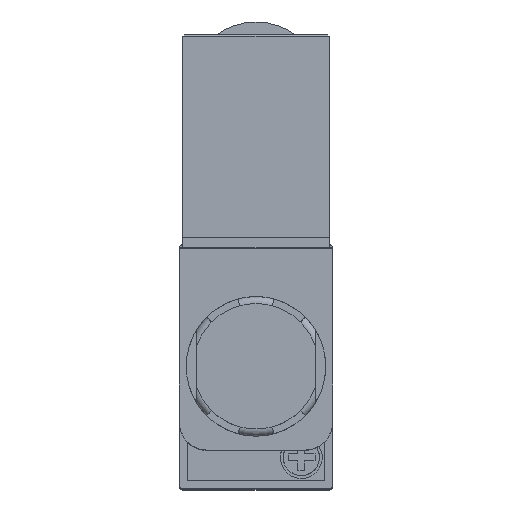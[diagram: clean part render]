
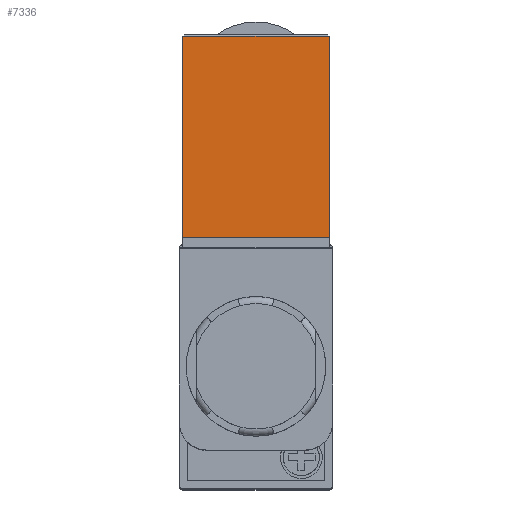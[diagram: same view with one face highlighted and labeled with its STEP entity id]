
A CAD part, top view. The second image highlights one B-rep face of the part: STEP entity #7336.
In plain terms, the highlighted planar face has unit normal (0, 0, 1).
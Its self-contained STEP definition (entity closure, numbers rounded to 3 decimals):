
#260=PLANE('',#8039);
#985=LINE('',#12447,#1681);
#991=LINE('',#12459,#1687);
#993=LINE('',#12463,#1689);
#996=LINE('',#12470,#1692);
#997=LINE('',#12471,#1693);
#998=LINE('',#12472,#1694);
#1681=VECTOR('',#9933,20.8);
#1687=VECTOR('',#9945,0.1);
#1689=VECTOR('',#9949,28.8);
#1692=VECTOR('',#9954,28.8);
#1693=VECTOR('',#9955,21.);
#1694=VECTOR('',#9956,0.1);
#2218=FACE_OUTER_BOUND('',#2718,.T.);
#2718=EDGE_LOOP('',(#6459,#6460,#6461,#6462,#6463,#6464));
#3711=VERTEX_POINT('',#12442);
#3712=VERTEX_POINT('',#12446);
#3715=VERTEX_POINT('',#12458);
#3716=VERTEX_POINT('',#12462);
#3718=VERTEX_POINT('',#12468);
#3719=VERTEX_POINT('',#12469);
#4662=EDGE_CURVE('',#3712,#3711,#985,.T.);
#4668=EDGE_CURVE('',#3712,#3715,#991,.T.);
#4670=EDGE_CURVE('',#3716,#3715,#993,.T.);
#4673=EDGE_CURVE('',#3718,#3719,#996,.T.);
#4674=EDGE_CURVE('',#3718,#3716,#997,.T.);
#4675=EDGE_CURVE('',#3719,#3711,#998,.T.);
#6459=ORIENTED_EDGE('',*,*,#4673,.F.);
#6460=ORIENTED_EDGE('',*,*,#4674,.T.);
#6461=ORIENTED_EDGE('',*,*,#4670,.T.);
#6462=ORIENTED_EDGE('',*,*,#4668,.F.);
#6463=ORIENTED_EDGE('',*,*,#4662,.T.);
#6464=ORIENTED_EDGE('',*,*,#4675,.F.);
#7336=ADVANCED_FACE('',(#2218),#260,.T.);
#8039=AXIS2_PLACEMENT_3D('',#12467,#9952,#9953);
#9933=DIRECTION('',(1.,0.,0.));
#9945=DIRECTION('',(-1.,0.,0.));
#9949=DIRECTION('',(0.,-1.,0.));
#9952=DIRECTION('center_axis',(0.,0.,1.));
#9953=DIRECTION('ref_axis',(1.,0.,0.));
#9954=DIRECTION('',(0.,-1.,0.));
#9955=DIRECTION('',(-1.,0.,0.));
#9956=DIRECTION('',(-1.,0.,0.));
#12442=CARTESIAN_POINT('',(10.4,18.55,53.95));
#12446=CARTESIAN_POINT('',(-10.4,18.55,53.95));
#12447=CARTESIAN_POINT('',(10.45,18.55,53.95));
#12458=CARTESIAN_POINT('',(-10.5,18.55,53.95));
#12459=CARTESIAN_POINT('',(-10.5,18.55,53.95));
#12462=CARTESIAN_POINT('',(-10.5,47.35,53.95));
#12463=CARTESIAN_POINT('',(-10.5,47.55,53.95));
#12467=CARTESIAN_POINT('Origin',(-10.5,47.55,53.95));
#12468=CARTESIAN_POINT('',(10.5,47.35,53.95));
#12469=CARTESIAN_POINT('',(10.5,18.55,53.95));
#12470=CARTESIAN_POINT('',(10.5,47.55,53.95));
#12471=CARTESIAN_POINT('',(-10.5,47.35,53.95));
#12472=CARTESIAN_POINT('',(-10.5,18.55,53.95));
